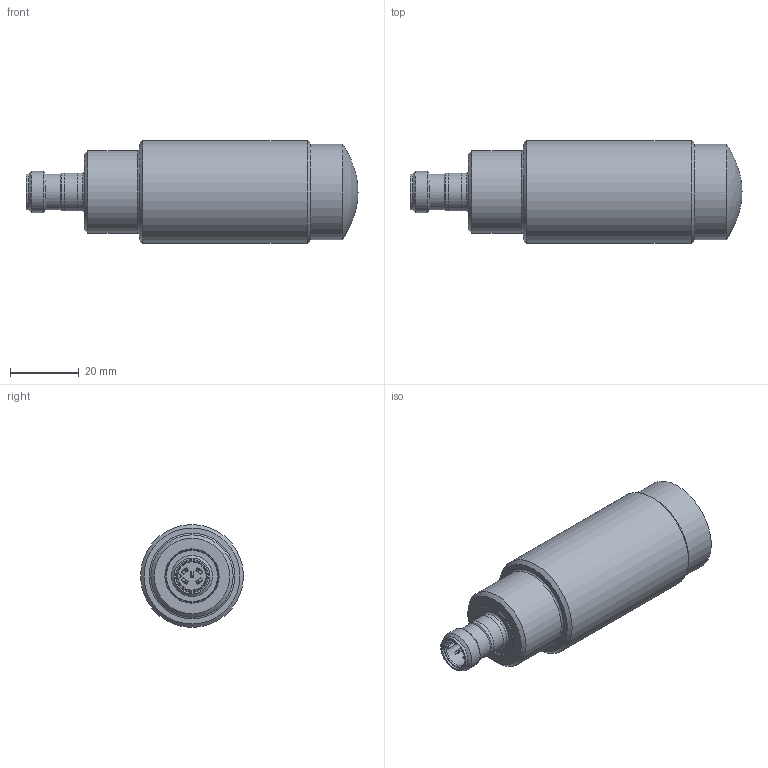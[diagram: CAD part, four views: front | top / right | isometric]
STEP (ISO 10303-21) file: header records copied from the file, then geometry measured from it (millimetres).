
FILE_DESCRIPTION( ( 'Unknown' ), '1' );
FILE_NAME( 'X:/SolidEdge/Models/Dokumentationen/Radar/RR30/Vereinfachte Modelle/Neutralformate/RR30_kurz.stp', 'Unknown', ( 'Unknown' ), ( 'Unknown' ), 'PSStep 19.0.9', 'Unknown', ' ' );
FILE_SCHEMA( ( 'AUTOMOTIVE_DESIGN { 1 0 10303 214 1 1 1 1 }' ) );
Length unit declared in the file: millimetre
Products named in the file (1): Abdeckung LED aufgesp
Bounding box: 96.84 x 30 x 30 mm (x, y, z)
Volume: 50709.7 mm3; surface area: 9231.2 mm2
Topology: 1 solids, 1 shells, 175 faces, 438 edges, 274 vertices
Faces by surface type: plane 104, cylinder 47, cone 21, torus 2, revolution 1
Full cylindrical faces by diameter (mm): 9.45 x1, 10.15 x4, 10.2 x2, 10.45 x2, 11 x3, 12 x1, 15.34 x1, 24 x1, 28 x1, 30 x1
Entity records: 6295 total; most frequent: DIRECTION 863, CARTESIAN_POINT 847, ORIENTED_EDGE 772, EDGE_CURVE 386, AXIS2_PLACEMENT_3D 303, VERTEX_POINT 262, LINE 256, VECTOR 256
